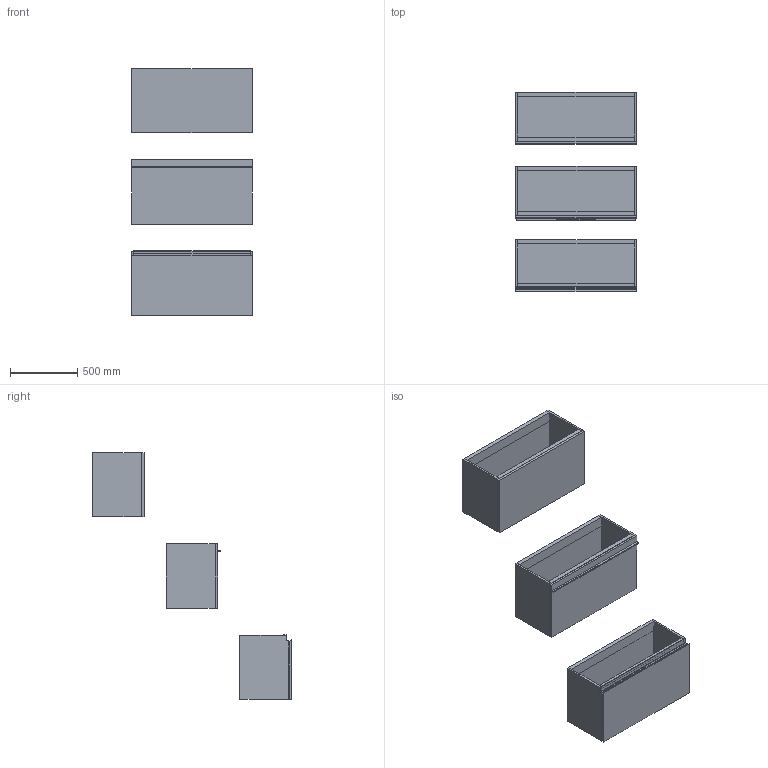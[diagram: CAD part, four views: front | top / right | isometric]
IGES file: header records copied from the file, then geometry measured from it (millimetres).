
Start section: Data from Parasolid IGES Translator 19.0.9, Copyright(c) 2006 Siemens PL M Software. All Rights Reserved.
Global section: file name: noorth-SI-H 48 D 38,8 W 108_8390.igs; native system: By Siemens PLM Incorporated; preprocessor: XPlus GENERIC/IGES 19.0.9; author: Noname; organization: Noname; date: 20200601.100513; units: metre
Bounding box: 900 x 1485.1 x 1840.01 mm (x, y, z)
Volume: 66932310.6 mm3; surface area: 10280982.9 mm2
Topology: 23 solids, 23 shells, 196 faces, 418 edges, 258 vertices
Faces by surface type: plane 152, extrusion 16, bspline 16, cylinder 12
